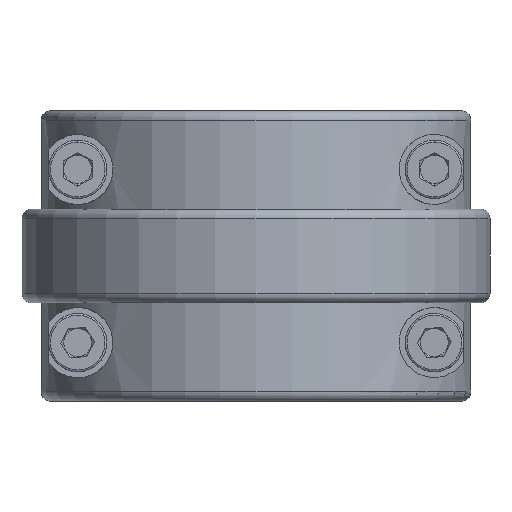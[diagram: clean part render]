
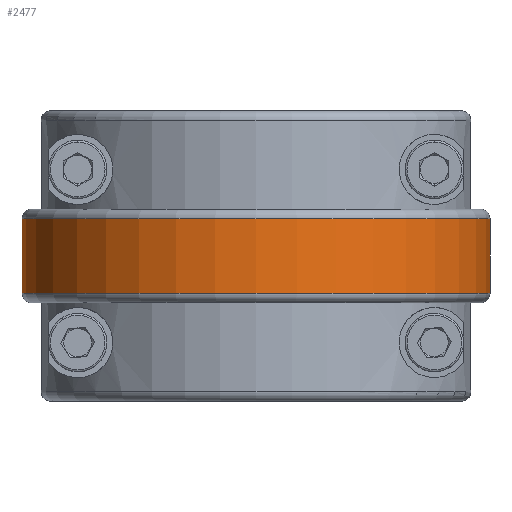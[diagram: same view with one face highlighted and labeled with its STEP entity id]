
A CAD part, front view. The second image highlights one B-rep face of the part: STEP entity #2477.
In plain terms, the highlighted cylindrical face has radius 31.75 mm (diameter 63.5 mm), a partial arc.
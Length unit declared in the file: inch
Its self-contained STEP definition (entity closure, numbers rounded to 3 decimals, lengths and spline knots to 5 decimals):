
#399 = LINE ( 'NONE', #4478, #5484 ) ;
#517 = DIRECTION ( 'NONE',  ( 0., 0., -1. ) ) ;
#1270 = EDGE_CURVE ( 'NONE', #1461, #2621, #3849, .T. ) ;
#1461 = VERTEX_POINT ( 'NONE', #6620 ) ;
#1482 = EDGE_LOOP ( 'NONE', ( #3905, #6047, #2106, #7904 ) ) ;
#1770 = CARTESIAN_POINT ( 'NONE',  ( 0.22575, -0.32984, -0.1726 ) ) ;
#2022 = DIRECTION ( 'NONE',  ( -1., 0., 0. ) ) ;
#2106 = ORIENTED_EDGE ( 'NONE', *, *, #4982, .T. ) ;
#2118 = AXIS2_PLACEMENT_3D ( 'NONE', #1770, #6448, #2432 ) ;
#2200 = CARTESIAN_POINT ( 'NONE',  ( 1.47575, -0.32984, -0.5726 ) ) ;
#2432 = DIRECTION ( 'NONE',  ( 1., 0., 0. ) ) ;
#2477 = ADVANCED_FACE ( 'NONE', ( #3501 ), #4219, .T. ) ;
#2621 = VERTEX_POINT ( 'NONE', #2200 ) ;
#2962 = AXIS2_PLACEMENT_3D ( 'NONE', #3441, #3421, #3402 ) ;
#3402 = DIRECTION ( 'NONE',  ( 1., 0., 0. ) ) ;
#3421 = DIRECTION ( 'NONE',  ( 0., 0., 1. ) ) ;
#3441 = CARTESIAN_POINT ( 'NONE',  ( 0.22575, -0.32984, -0.5726 ) ) ;
#3501 = FACE_OUTER_BOUND ( 'NONE', #1482, .T. ) ;
#3734 = VECTOR ( 'NONE', #3944, 39.37008 ) ;
#3849 = LINE ( 'NONE', #3901, #3734 ) ;
#3870 = CIRCLE ( 'NONE', #2962, 1.25 ) ;
#3897 = EDGE_CURVE ( 'NONE', #7789, #2621, #3870, .T. ) ;
#3901 = CARTESIAN_POINT ( 'NONE',  ( 1.47575, -0.32984, -0.1226 ) ) ;
#3905 = ORIENTED_EDGE ( 'NONE', *, *, #1270, .F. ) ;
#3944 = DIRECTION ( 'NONE',  ( 0., 0., -1. ) ) ;
#4219 = CYLINDRICAL_SURFACE ( 'NONE', #5294, 1.25 ) ;
#4478 = CARTESIAN_POINT ( 'NONE',  ( -1.02425, -0.32984, -0.1226 ) ) ;
#4958 = EDGE_CURVE ( 'NONE', #1461, #5749, #6320, .T. ) ;
#4982 = EDGE_CURVE ( 'NONE', #5749, #7789, #399, .T. ) ;
#5294 = AXIS2_PLACEMENT_3D ( 'NONE', #5902, #5335, #2022 ) ;
#5335 = DIRECTION ( 'NONE',  ( 0., 0., -1. ) ) ;
#5484 = VECTOR ( 'NONE', #517, 39.37008 ) ;
#5749 = VERTEX_POINT ( 'NONE', #7141 ) ;
#5902 = CARTESIAN_POINT ( 'NONE',  ( 0.22575, -0.32984, -0.1226 ) ) ;
#6047 = ORIENTED_EDGE ( 'NONE', *, *, #4958, .T. ) ;
#6320 = CIRCLE ( 'NONE', #2118, 1.25 ) ;
#6448 = DIRECTION ( 'NONE',  ( 0., 0., -1. ) ) ;
#6534 = CARTESIAN_POINT ( 'NONE',  ( -1.02425, -0.32984, -0.5726 ) ) ;
#6620 = CARTESIAN_POINT ( 'NONE',  ( 1.47575, -0.32984, -0.1726 ) ) ;
#7141 = CARTESIAN_POINT ( 'NONE',  ( -1.02425, -0.32984, -0.1726 ) ) ;
#7789 = VERTEX_POINT ( 'NONE', #6534 ) ;
#7904 = ORIENTED_EDGE ( 'NONE', *, *, #3897, .T. ) ;
